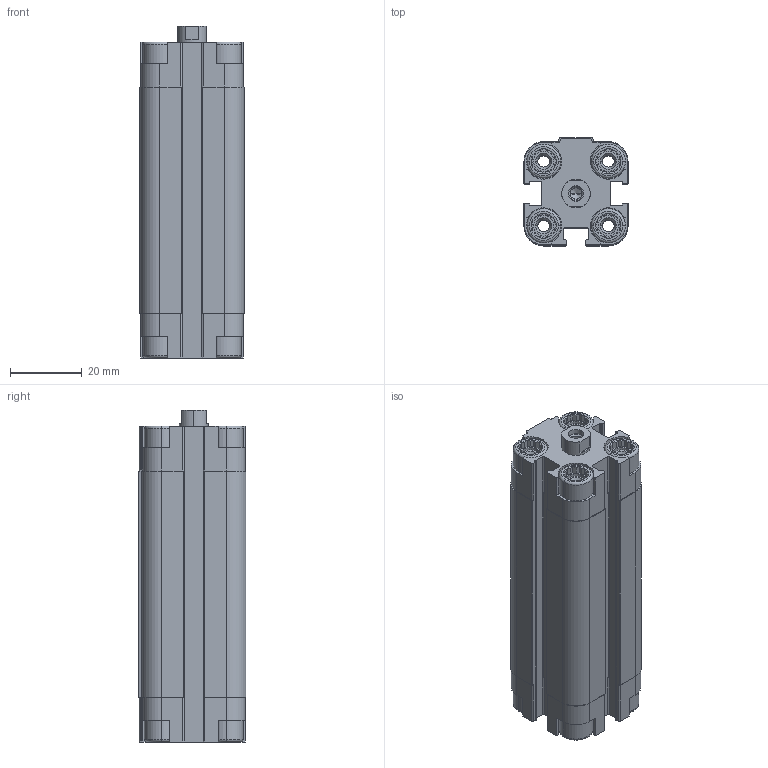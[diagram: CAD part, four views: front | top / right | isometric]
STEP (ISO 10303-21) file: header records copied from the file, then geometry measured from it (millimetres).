
FILE_DESCRIPTION (( 'STEP AP203' ), '1' );
FILE_NAME ('CDVU16-50F.STEP', '2020-03-30T14:54:06', ( '' ), ( '' ), 'SwSTEP 2.0', 'SolidWorks 2019', '' );
FILE_SCHEMA (( 'CONFIG_CONTROL_DESIGN' ));
Length unit declared in the file: millimetre
Products named in the file (1): CDVU16-50F
Bounding box: 29 x 30 x 92.5 mm (x, y, z)
Volume: 47550 mm3; surface area: 27803.8 mm2
Topology: 2 solids, 2 shells, 553 faces, 1474 edges, 959 vertices
Faces by surface type: plane 333, cylinder 158, cone 46, torus 16
Entity records: 17385 total; most frequent: CARTESIAN_POINT 3557, ORIENTED_EDGE 2936, DIRECTION 2776, EDGE_CURVE 1468, VERTEX_POINT 959, AXIS2_PLACEMENT_3D 946, VECTOR 884, LINE 884
